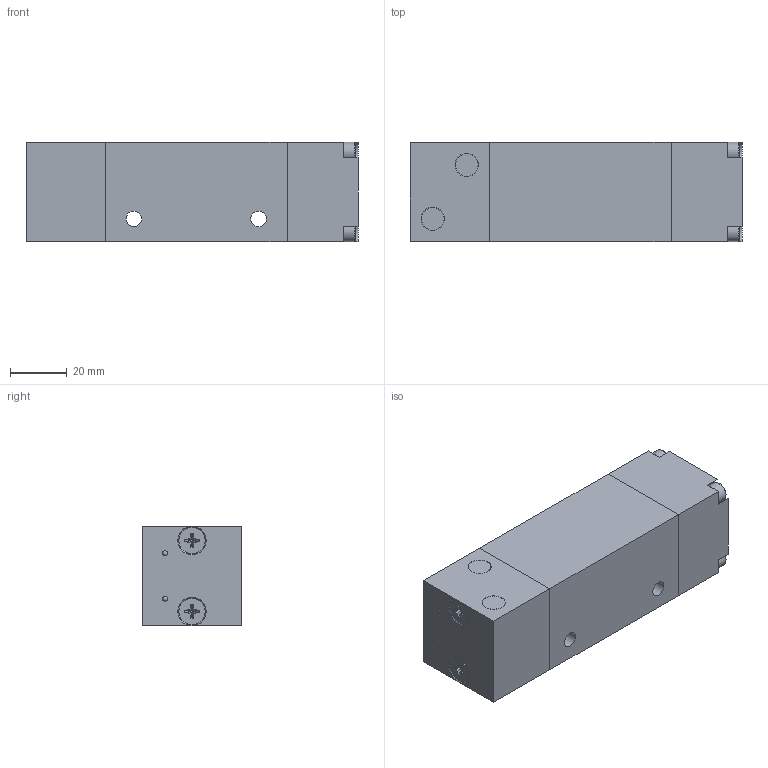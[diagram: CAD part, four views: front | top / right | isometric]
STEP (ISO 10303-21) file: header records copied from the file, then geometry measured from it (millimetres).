
FILE_DESCRIPTION(/* description */ ('Unknown'),/* implementation_level */ '2;1');
FILE_NAME(/* name */ 'KI 510 502',/* time_stamp */ '2024-03-27T10:24:29+01:00',/* author */ ('Unknown'),/* organization */ ('HAFNER Pneumatika Kft.'),/* preprocessor_version */ 'ST-DEVELOPER v18.102',/* originating_system */ 'Solid Edge',/* authorisation */ 'Unknown');
FILE_SCHEMA (('AUTOMOTIVE_DESIGN {1 0 10303 214 3 1 1}'));
Length unit declared in the file: millimetre
Products named in the file (2): KI 510 502
Assembly tree (1 placements, depth 2):
  KI 510 502
    KI 510 502
Bounding box: 117 x 35 x 35 mm (x, y, z)
Surface area: 25315.9 mm2
Topology: 2 solids, 16 shells, 250 faces, 705 edges, 462 vertices
Faces by surface type: plane 148, cone 49, cylinder 35, bspline 12, torus 4, sphere 2
Full cylindrical faces by diameter (mm): 1.85 x4, 5.5 x2, 7 x4, 8 x4, 8.566 x14, 9.3 x2, 12 x1
Entity records: 8903 total; most frequent: CARTESIAN_POINT 2146, DIRECTION 1126, ORIENTED_EDGE 1089, EDGE_CURVE 594, VERTEX_POINT 420, LINE 398, VECTOR 398, AXIS2_PLACEMENT_3D 364
